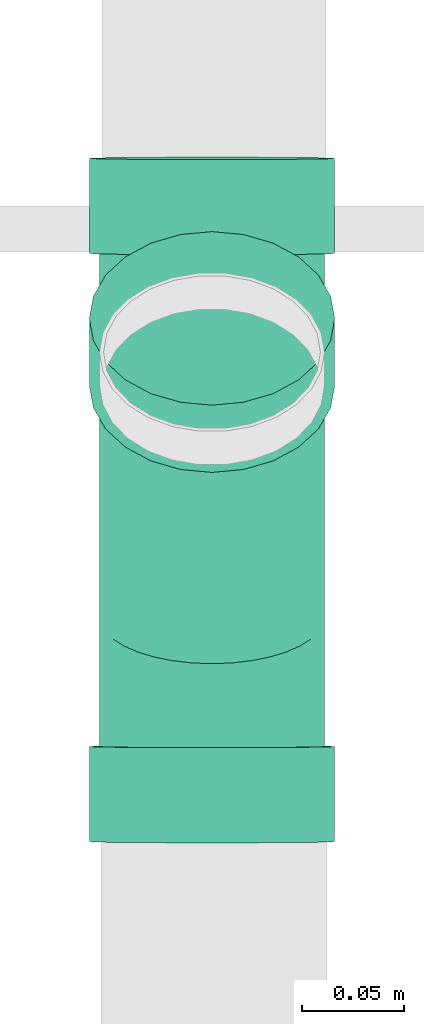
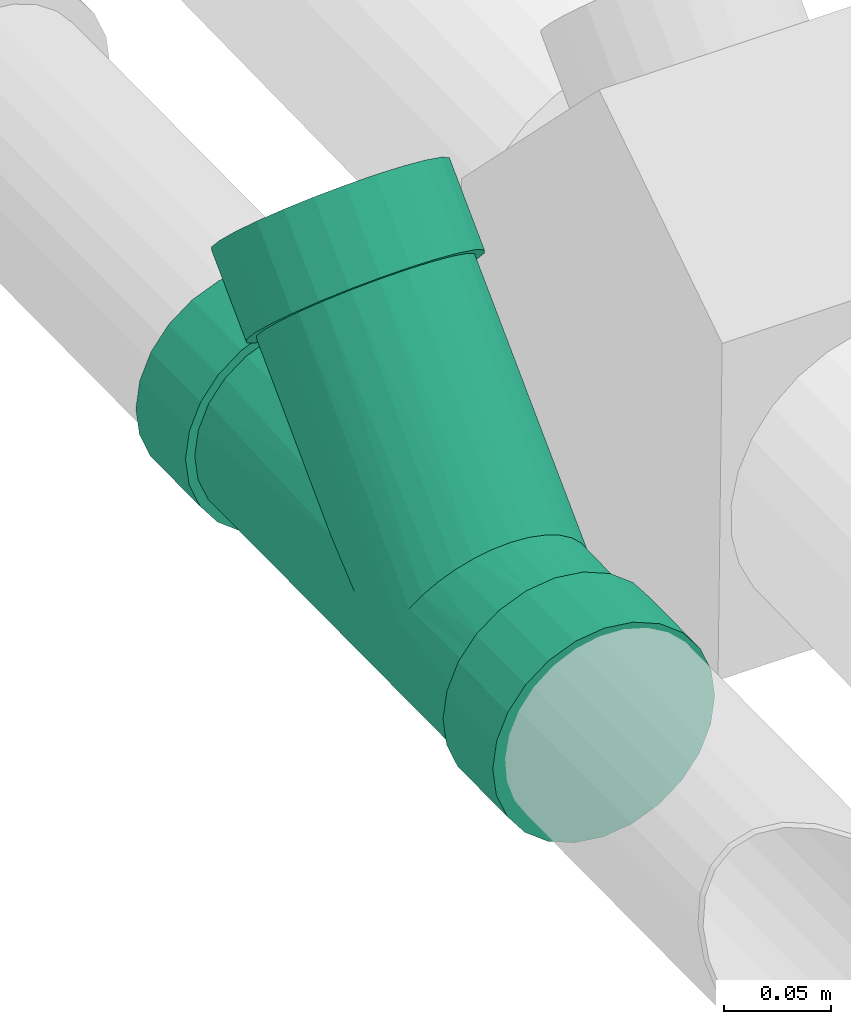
# One storey, part 58 of 78: 1 flow fitting.
"""IFC2X3 building model written with IfcOpenShell, lengths in millimetres."""

from ifc_helpers import new_model, entity, si_unit, converted_unit, derived_unit, direction, frame, origin_with_axes, place, context, subcontext, project, spatial, open_shell, surface_model, source, transform, mapped, type_object, element, save


model = new_model("IFC2X3")

# Units and contexts
model_context = context("Model", 3, precision=0.01, world=frame((0.0, 4.29681676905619e-09, 0.0)), true_north=direction((4.01073788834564e-13, 1.0)))
plan_context = context("Plan", 3, precision=0.01, world=frame((0.0, 4.29681676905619e-09, 0.0)), true_north=direction((4.01073788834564e-13, 1.0)))
body_context = subcontext(model_context, "Body", "Model", "MODEL_VIEW")
ifc_project = project(units=[converted_unit("PLANEANGLEUNIT", "DEGREE", entity("IfcPositiveLengthMeasure", 0.0174532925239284), si_unit("PLANEANGLEUNIT", "RADIAN"), dimensions=[0, 0, 0, 0, 0, 0, 0]), si_unit("AREAUNIT", "SQUARE_METRE"), si_unit("LENGTHUNIT", "METRE", prefix="MILLI"), si_unit("MASSUNIT", "GRAM", prefix="KILO"), si_unit("POWERUNIT", "WATT"), si_unit("PRESSUREUNIT", "PASCAL"), si_unit("FORCEUNIT", "NEWTON", prefix="KILO"), si_unit("ELECTRICVOLTAGEUNIT", "VOLT"), si_unit("ELECTRICCURRENTUNIT", "AMPERE"), si_unit("THERMODYNAMICTEMPERATUREUNIT", "DEGREE_CELSIUS"), si_unit("TIMEUNIT", "SECOND"), si_unit("VOLUMEUNIT", "CUBIC_METRE"), derived_unit("LINEARVELOCITYUNIT", [(si_unit("LENGTHUNIT", "METRE"), 1), (si_unit("TIMEUNIT", "SECOND"), -1)]), derived_unit("VOLUMETRICFLOWRATEUNIT", [(si_unit("VOLUMEUNIT", "CUBIC_METRE"), 1), (si_unit("TIMEUNIT", "SECOND"), -1)]), derived_unit("THERMALTRANSMITTANCEUNIT", [(si_unit("POWERUNIT", "WATT"), 1), (si_unit("THERMODYNAMICTEMPERATUREUNIT", "KELVIN"), -1), (si_unit("AREAUNIT", "SQUARE_METRE"), -1)]), derived_unit("SOUNDPRESSUREUNIT", [(si_unit("PRESSUREUNIT", "PASCAL"), 1)])], contexts=[model_context, plan_context])

# Site, building, storey
site_placement = place(None, frame((0.0, -4.29681676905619e-09, 0.0), z_axis=(0.0, 0.0, 1.0), x_axis=(1.0, 0.0, 0.0)))
site = spatial("IfcSite", under=ifc_project, at=site_placement, Name="ENGM", CompositionType="ELEMENT")
building_placement = place(site_placement, frame((0.0, 4.29681676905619e-09, 0.0), z_axis=(0.0, 0.0, 1.0), x_axis=(1.0, 0.0, 0.0)))
building = spatial("IfcBuilding", under=site, at=building_placement, Name="TH", CompositionType="ELEMENT")
storey_placement = place(building_placement, frame((0.0, 0.0, 205200.0), z_axis=(0.0, 0.0, 1.0), x_axis=(1.0, 0.0, 0.0)))
storey = spatial("IfcBuildingStorey", under=building, at=storey_placement, Name="Nivå D + 1,2 m", CompositionType="ELEMENT", Elevation=205200.0)

# Flow fitting
pipe_fitting_type = type_object("IfcPipeFittingType", Name="magi_sewer_tee_wye_NOR", PredefinedType="JUNCTION")
shared_shape = source(origin_with_axes(), body_context, "Body", "SurfaceModel", [
    surface_model("IfcShellBasedSurfaceModel", [(224.03602, 30.0, -51.96152), (224.03602, -42.42641, -42.42641), (224.03602, 15.52914, -57.95555), (224.03602, 51.96152, -30.0), (224.03602, 42.42641, -42.42641), (224.03602, 57.95555, -15.52914), (224.03602, 60.0, 0.0), (224.03602, 0.0, -60.0), (224.03602, -30.0, -51.96152), (224.03602, -15.52914, -57.95555), (224.03602, 57.95555, 15.52914), (224.03602, -51.96152, -30.0), (224.03602, -60.0, 0.0), (224.03602, -57.95555, -15.52914), (224.03602, 51.96152, 30.0), (224.03602, 42.42641, 42.42641), (224.03602, 15.52914, 57.95555), (224.03602, 0.0, 60.0), (224.03602, 30.0, 51.96152), (224.03602, -51.96152, 30.0), (224.03602, -57.95555, 15.52914), (224.03602, -30.0, 51.96152), (224.03602, -42.42641, 42.42641), (224.03602, -15.52914, 57.95555), (177.53602, 42.42641, 42.42641), (177.53602, 0.0, 60.0), (177.53602, 15.52914, 57.95555), (177.53602, 30.0, 51.96152), (177.53602, 51.96152, 30.0), (177.53602, 57.95555, 15.52914), (177.53602, -60.0, 0.0), (177.53602, -30.0, 51.96152), (177.53602, -51.96152, 30.0), (177.53602, -42.42641, 42.42641), (177.53602, -15.52914, 57.95555), (177.53602, -57.95555, 15.52914), (177.53602, -51.96152, -30.0), (177.53602, -42.42641, -42.42641), (177.53602, 57.95555, -15.52914), (177.53602, 42.42641, -42.42641), (177.53602, 51.96152, -30.0), (177.53602, 30.0, -51.96152), (177.53602, 15.52914, -57.95555), (177.53602, -57.95555, -15.52914), (177.53602, -30.0, -51.96152), (177.53602, 0.0, -60.0), (177.53602, -15.52914, -57.95555), (177.53602, 60.0, 0.0), (135.036, -90.35357, -51.96152), (124.90638, -100.68782, -57.95555), (114.03597, -111.77783, -60.0), (72.03593, -154.62637, 0.0), (77.66287, -148.88575, 30.0), (143.73449, -81.47935, -42.42641), (150.40908, -74.66992, -30.0), (135.036, -90.35357, 51.96152), (84.33746, -142.07632, -42.42641), (77.66287, -148.88575, -30.0), (93.03595, -133.2021, -51.96152), (103.16556, -122.86785, -57.95555), (73.46705, -153.16634, -15.52914), (150.40908, -74.66992, 30.0), (154.6049, -70.38934, -15.52914), (154.6049, -70.38934, 15.52914), (156.03602, -68.92931, 0.0), (143.73449, -81.47935, 42.42641), (124.90638, -100.68782, 57.95555), (114.03597, -111.77783, 60.0), (84.33746, -142.07632, 42.42641), (73.46705, -153.16634, 15.52914), (93.03595, -133.2021, 51.96152), (103.16556, -122.86785, 57.95555), (176.94211, -114.02939, -42.42641), (147.24358, -144.32787, -60.0), (158.11399, -133.23785, -57.95555), (168.2436, -122.90361, -51.96152), (126.24357, -165.75213, -51.96152), (110.87048, -181.43578, 30.0), (183.61668, -107.21995, -30.0), (110.87048, -181.43578, -30.0), (117.54507, -174.62635, -42.42641), (136.37317, -155.41788, -57.95555), (105.24354, -187.1764, 0.0), (106.67466, -185.71637, -15.52914), (187.8125, -102.93937, -15.52914), (183.61668, -107.21995, 30.0), (187.8125, -102.93937, 15.52914), (168.2436, -122.90361, 51.96152), (147.24358, -144.32787, 60.0), (176.94211, -114.02939, 42.42641), (158.11399, -133.23785, 57.95555), (126.24357, -165.75213, 51.96152), (117.54507, -174.62635, 42.42641), (106.67466, -185.71637, 15.52914), (136.37317, -155.41788, 57.95555), (189.24363, -101.47934, 0.0), (-110.00004, -30.0, -51.96152), (-110.00004, 42.42641, -42.42641), (-110.00004, -15.52914, -57.95555), (-110.00004, -51.96152, -30.0), (-110.00004, -42.42641, -42.42641), (-110.00004, -57.95555, -15.52914), (-110.00004, -60.0, 0.0), (-110.00004, 0.0, -60.0), (-110.00004, 30.0, -51.96152), (-110.00004, 15.52914, -57.95555), (-110.00004, -57.95555, 15.52914), (-110.00004, 51.96152, -30.0), (-110.00004, 60.0, 0.0), (-110.00004, 57.95555, -15.52914), (-110.00004, -51.96152, 30.0), (-110.00004, -42.42641, 42.42641), (-110.00004, -15.52914, 57.95555), (-110.00004, 0.0, 60.0), (-110.00004, -30.0, 51.96152), (-110.00004, 51.96152, 30.0), (-110.00004, 57.95555, 15.52914), (-110.00004, 30.0, 51.96152), (-110.00004, 42.42641, 42.42641), (-110.00004, 15.52914, 57.95555), (-63.50004, -42.42641, 42.42641), (-63.50004, 0.0, 60.0), (-63.50004, -15.52914, 57.95555), (-63.50004, -30.0, 51.96152), (-63.50004, -51.96152, 30.0), (-63.50004, -57.95555, 15.52914), (-63.50004, 60.0, 0.0), (-63.50004, 30.0, 51.96152), (-63.50004, 51.96152, 30.0), (-63.50004, 42.42641, 42.42641), (-63.50004, 15.52914, 57.95555), (-63.50004, 57.95555, 15.52914), (-63.50004, 51.96152, -30.0), (-63.50004, 42.42641, -42.42641), (-63.50004, -57.95555, -15.52914), (-63.50004, -42.42641, -42.42641), (-63.50004, -51.96152, -30.0), (-63.50004, -30.0, -51.96152), (-63.50004, -15.52914, -57.95555), (-63.50004, 57.95555, -15.52914), (-63.50004, 30.0, -51.96152), (-63.50004, 0.0, -60.0), (-63.50004, 15.52914, -57.95555), (-63.50004, -60.0, 0.0), (177.53602, 27.5, -47.63139), (177.53602, 0.0, -55.0), (177.53602, 14.23505, -53.12592), (177.53602, 47.63139, -27.5), (177.53602, 38.89087, -38.89087), (177.53602, 53.12592, -14.23505), (177.53602, 47.63139, 27.5), (177.53602, 27.5, 47.63139), (177.53602, -27.5, -47.63139), (177.53602, -14.23505, -53.12592), (177.53602, -47.63139, -27.5), (177.53602, -38.89087, -38.89087), (177.53602, -47.63139, 27.5), (177.53602, -55.0, 0.0), (177.53602, -53.12592, -14.23505), (177.53602, 55.0, 0.0), (177.53602, 38.89087, 38.89087), (177.53602, 14.23505, 53.12592), (177.53602, 0.0, 55.0), (177.53602, -38.89087, 38.89087), (177.53602, -53.12592, 14.23505), (177.53602, -14.23505, 53.12592), (177.53602, -27.5, 47.63139), (177.53602, 53.12592, 14.23505), (-63.50004, 0.0, 55.0), (-63.50004, 14.23505, 53.12592), (-63.50004, 27.5, 47.63139), (-63.50004, -47.63139, 27.5), (-63.50004, 27.5, -47.63139), (-63.50004, 47.63139, 27.5), (-63.50004, 38.89087, 38.89087), (-63.50004, -27.5, 47.63139), (-63.50004, -14.23505, 53.12592), (-63.50004, -38.89087, 38.89087), (-63.50004, -55.0, 0.0), (-63.50004, -53.12592, 14.23505), (-63.50004, -47.63139, -27.5), (-63.50004, 53.12592, -14.23505), (-63.50004, 53.12592, 14.23505), (-63.50004, 47.63139, -27.5), (-63.50004, -27.5, -47.63139), (-63.50004, 38.89087, -38.89087), (-63.50004, 0.0, -55.0), (-63.50004, 14.23505, -53.12592), (-63.50004, -38.89087, -38.89087), (-63.50004, -53.12592, -14.23505), (-63.50004, -14.23505, -53.12592), (-63.50004, 55.0, 0.0), (-21.54704, -52.76379, -14.70993), (-63.50004, -53.59444, -10.67629), (-22.46024, -55.0, 0.0), (-63.50004, -54.53148, -3.55876), (-22.2756, -54.54787, -4.96614), (-63.50004, -54.06296, -7.11752), (-22.09097, -54.09575, -9.93227), (-63.50004, -43.26114, -33.19544), (-16.92066, -41.43485, -36.1684), (-18.08655, -44.28983, -32.24725), (-19.25243, -47.14481, -28.32609), (-20.12777, -49.28832, -23.90684), (-63.50004, -33.19544, -43.26114), (-10.9048, -26.70336, -48.08254), (-15.51245, -37.98646, -39.48585), (-14.10424, -34.53807, -42.80329), (-21.00311, -51.43184, -19.48759), (-63.50004, -50.37866, -20.86752), (-9.16399, -22.44052, -49.9959), (-63.50004, -49.00503, -24.18376), (-63.50004, -20.86752, -50.37866), (-7.42319, -18.17769, -51.90926), (129.38328, -52.83598, -15.27608), (118.11626, -48.2349, -26.42716), (132.03287, -53.91799, -7.63804), (177.53602, -54.06296, -7.11752), (134.68246, -55.0, 0.0), (104.77923, -42.78848, -34.55642), (177.53602, -43.26114, -33.19544), (-3.75696, -9.19994, -54.2251), (-63.50004, -7.11752, -54.06296), (75.88185, -30.98771, -45.43965), (60.93127, -24.88238, -49.04964), (90.56181, -36.98254, -40.70985), (0.0, 0.0, -55.0), (-5.59007, -13.68882, -53.06718), (30.59329, -12.49332, -53.56227), (15.31071, -6.2524, -54.64346), (45.81522, -18.70947, -51.71998), (-18.08655, -44.28983, 32.24725), (-63.50004, -43.26114, 33.19544), (-20.12777, -49.28832, 23.90684), (-63.50004, -49.00503, 24.18376), (-63.50004, -7.11752, 54.06296), (-3.75696, -9.19994, 54.2251), (0.0, 0.0, 55.0), (-5.59007, -13.68882, 53.06718), (-7.42319, -18.17769, 51.90926), (-63.50004, -20.86752, 50.37866), (-10.9048, -26.70336, 48.08254), (-9.16399, -22.44052, 49.9959), (104.33903, -42.60872, 33.5685), (177.53602, -43.26114, 33.19544), (-22.2756, -54.54787, 4.96614), (-63.50004, -54.06296, 7.11752), (-63.50004, -54.53148, 3.55876), (-63.50004, -50.37866, 20.86752), (-21.00311, -51.43184, 19.48759), (30.59329, -12.49332, 53.56227), (60.93127, -24.88238, 49.04964), (-63.50004, -33.19544, 43.26114), (-14.10424, -34.53807, 42.80329), (-19.25243, -47.14481, 28.32609), (-16.92066, -41.43485, 36.1684), (-15.51245, -37.98646, 39.48585), (-21.54704, -52.76379, 14.70993), (-63.50004, -53.59444, 10.67629), (-22.09097, -54.09575, 9.93227), (90.56181, -36.98254, 40.70985), (118.11626, -48.2349, 26.42716), (126.39936, -51.61745, 13.21358), (114.03597, -111.77783, -55.0), (124.00052, -101.61198, -53.12592), (133.286, -92.13893, -47.63139), (80.69397, -145.79343, -27.5), (76.84779, -149.7173, -14.23505), (147.37799, -77.76225, -27.5), (141.25961, -84.00422, -38.89087), (80.69397, -145.79343, 27.5), (94.78596, -131.41674, -47.63139), (86.81233, -139.55145, -38.89087), (104.07143, -121.94368, -53.12592), (75.53593, -151.05565, 0.0), (151.22415, -73.83838, 14.23505), (151.22415, -73.83838, -14.23505), (147.37799, -77.76225, 27.5), (86.81233, -139.55145, 38.89087), (114.03597, -111.77783, 55.0), (141.25961, -84.00422, 38.89087), (133.286, -92.13893, 47.63139), (124.00052, -101.61198, 53.12592), (76.84779, -149.7173, 14.23505), (104.07143, -121.94368, 53.12592), (94.78596, -131.41674, 47.63139), (152.53602, -72.50002, 0.0), (151.88008, -73.1692, -7.11752), (149.30107, -75.80031, -20.86752), (144.3188, -80.88324, -33.19544), (123.74977, -50.53544, -20.85162)], [open_shell([[[0, 1, 2]], [[3, 0, 4]], [[5, 6, 0]], [[5, 0, 3]], [[1, 0, 6]], [[7, 8, 9]], [[8, 7, 1]], [[2, 1, 7]], [[1, 10, 11]], [[11, 12, 13]], [[10, 1, 6]], [[10, 14, 15]], [[12, 10, 15]], [[16, 17, 15]], [[16, 15, 18]], [[19, 15, 17]], [[12, 19, 20]], [[12, 15, 19]], [[19, 21, 22]], [[19, 17, 21]], [[23, 21, 17]], [[10, 12, 11]], [[24, 25, 26]], [[24, 26, 27]], [[24, 28, 29]], [[25, 24, 30]], [[30, 24, 29]], [[31, 32, 33]], [[31, 34, 25]], [[32, 30, 35]], [[31, 25, 32]], [[25, 30, 32]], [[29, 36, 30]], [[37, 29, 38]], [[39, 38, 40]], [[41, 42, 38]], [[41, 38, 39]], [[37, 38, 42]], [[37, 36, 29]], [[43, 30, 36]], [[44, 45, 46]], [[45, 44, 37]], [[45, 37, 42]], [[47, 38, 29]], [[43, 13, 30]], [[36, 11, 43]], [[8, 37, 44]], [[36, 37, 1]], [[9, 44, 46]], [[43, 11, 13]], [[13, 12, 30]], [[9, 8, 44]], [[1, 37, 8]], [[1, 11, 36]], [[7, 9, 46]], [[46, 45, 7]], [[2, 42, 41]], [[39, 0, 41]], [[3, 40, 38]], [[39, 40, 4]], [[5, 38, 47]], [[42, 2, 45]], [[41, 0, 2]], [[45, 2, 7]], [[39, 4, 0]], [[40, 3, 4]], [[5, 3, 38]], [[47, 6, 5]], [[29, 10, 47]], [[28, 14, 29]], [[18, 24, 27]], [[28, 24, 15]], [[16, 27, 26]], [[29, 14, 10]], [[10, 6, 47]], [[18, 27, 16]], [[15, 24, 18]], [[15, 14, 28]], [[16, 25, 17]], [[16, 26, 25]], [[23, 34, 31]], [[33, 21, 31]], [[19, 32, 35]], [[33, 32, 22]], [[20, 35, 30]], [[34, 23, 25]], [[31, 21, 23]], [[25, 23, 17]], [[33, 22, 21]], [[32, 19, 22]], [[20, 19, 35]], [[30, 12, 20]], [[48, 49, 50]], [[50, 51, 52]], [[48, 50, 52]], [[53, 48, 54]], [[55, 54, 48]], [[56, 57, 58]], [[50, 59, 58]], [[60, 51, 57]], [[58, 57, 51]], [[58, 51, 50]], [[61, 62, 54]], [[61, 63, 64]], [[54, 55, 61]], [[48, 52, 55]], [[65, 61, 55]], [[66, 55, 67]], [[52, 68, 55]], [[52, 51, 69]], [[70, 71, 68]], [[67, 68, 71]], [[55, 68, 67]], [[62, 61, 64]], [[72, 73, 74]], [[72, 74, 75]], [[76, 73, 77]], [[78, 73, 72]], [[73, 78, 77]], [[76, 79, 80]], [[76, 81, 73]], [[79, 82, 83]], [[77, 79, 76]], [[77, 82, 79]], [[77, 78, 84]], [[85, 84, 86]], [[77, 84, 85]], [[85, 87, 88]], [[87, 85, 89]], [[90, 88, 87]], [[77, 91, 92]], [[93, 82, 77]], [[77, 94, 91]], [[94, 77, 88]], [[85, 88, 77]], [[86, 84, 95]], [[93, 51, 82]], [[77, 69, 93]], [[68, 92, 91]], [[77, 92, 52]], [[70, 91, 94]], [[77, 52, 69]], [[69, 51, 93]], [[71, 88, 67]], [[71, 70, 94]], [[68, 91, 70]], [[68, 52, 92]], [[88, 71, 94]], [[55, 90, 87]], [[89, 65, 87]], [[63, 85, 86]], [[89, 85, 61]], [[64, 86, 95]], [[90, 66, 67]], [[90, 55, 66]], [[87, 65, 55]], [[89, 61, 65]], [[63, 61, 85]], [[86, 64, 63]], [[90, 67, 88]], [[84, 64, 95]], [[78, 62, 84]], [[53, 72, 75]], [[78, 72, 54]], [[48, 75, 74]], [[78, 54, 62]], [[62, 64, 84]], [[49, 73, 50]], [[49, 48, 74]], [[53, 75, 48]], [[53, 54, 72]], [[73, 49, 74]], [[58, 81, 76]], [[80, 56, 76]], [[60, 79, 83]], [[80, 79, 57]], [[51, 83, 82]], [[59, 50, 81]], [[59, 81, 58]], [[76, 56, 58]], [[80, 57, 56]], [[60, 57, 79]], [[83, 51, 60]], [[81, 50, 73]], [[96, 97, 98]], [[99, 96, 100]], [[101, 102, 96]], [[101, 96, 99]], [[97, 96, 102]], [[103, 104, 105]], [[104, 103, 97]], [[98, 97, 103]], [[97, 106, 107]], [[107, 108, 109]], [[106, 97, 102]], [[106, 110, 111]], [[108, 106, 111]], [[112, 113, 111]], [[112, 111, 114]], [[115, 111, 113]], [[108, 115, 116]], [[108, 111, 115]], [[115, 117, 118]], [[115, 113, 117]], [[119, 117, 113]], [[106, 108, 107]], [[120, 121, 122]], [[120, 122, 123]], [[120, 124, 125]], [[121, 120, 126]], [[126, 120, 125]], [[127, 128, 129]], [[127, 130, 121]], [[128, 126, 131]], [[127, 121, 128]], [[121, 126, 128]], [[125, 132, 126]], [[133, 125, 134]], [[135, 134, 136]], [[137, 138, 134]], [[137, 134, 135]], [[133, 134, 138]], [[133, 132, 125]], [[139, 126, 132]], [[140, 141, 142]], [[141, 140, 133]], [[141, 133, 138]], [[143, 134, 125]], [[139, 109, 126]], [[132, 107, 139]], [[104, 133, 140]], [[132, 133, 97]], [[105, 140, 142]], [[139, 107, 109]], [[109, 108, 126]], [[105, 104, 140]], [[97, 133, 104]], [[97, 107, 132]], [[103, 105, 142]], [[142, 141, 103]], [[98, 138, 137]], [[135, 96, 137]], [[99, 136, 134]], [[135, 136, 100]], [[101, 134, 143]], [[138, 98, 141]], [[137, 96, 98]], [[141, 98, 103]], [[135, 100, 96]], [[136, 99, 100]], [[101, 99, 134]], [[143, 102, 101]], [[125, 106, 143]], [[124, 110, 125]], [[114, 120, 123]], [[124, 120, 111]], [[112, 123, 122]], [[125, 110, 106]], [[106, 102, 143]], [[114, 123, 112]], [[111, 120, 114]], [[111, 110, 124]], [[112, 121, 113]], [[112, 122, 121]], [[119, 130, 127]], [[129, 117, 127]], [[115, 128, 131]], [[129, 128, 118]], [[116, 131, 126]], [[130, 119, 121]], [[127, 117, 119]], [[121, 119, 113]], [[129, 118, 117]], [[128, 115, 118]], [[116, 115, 131]], [[126, 108, 116]], [[144, 145, 146]], [[147, 144, 148]], [[144, 149, 150]], [[149, 144, 147]], [[144, 151, 152]], [[145, 152, 153]], [[145, 144, 152]], [[152, 154, 155]], [[152, 156, 154]], [[154, 157, 158]], [[159, 150, 149]], [[144, 150, 151]], [[151, 150, 160]], [[151, 161, 162]], [[151, 156, 152]], [[162, 163, 151]], [[157, 156, 164]], [[154, 156, 157]], [[163, 165, 166]], [[163, 156, 151]], [[165, 163, 162]], [[159, 167, 150]], [[168, 169, 170]], [[171, 168, 170]], [[172, 171, 170]], [[173, 170, 174]], [[173, 172, 170]], [[168, 175, 176]], [[168, 177, 175]], [[171, 178, 179]], [[177, 168, 171]], [[171, 180, 178]], [[181, 173, 182]], [[181, 183, 173]], [[173, 183, 172]], [[171, 172, 184]], [[172, 183, 185]], [[186, 172, 187]], [[180, 184, 188]], [[189, 178, 180]], [[184, 186, 190]], [[180, 171, 184]], [[186, 184, 172]], [[182, 191, 181]], [[189, 192, 193]], [[194, 195, 196]], [[195, 197, 196]], [[198, 193, 192]], [[199, 200, 201]], [[202, 203, 180]], [[200, 199, 188]], [[204, 184, 205]], [[198, 197, 193]], [[180, 199, 201]], [[206, 200, 188]], [[197, 198, 196]], [[205, 207, 204]], [[203, 208, 209]], [[184, 210, 205]], [[180, 203, 211]], [[212, 213, 210]], [[214, 215, 154]], [[216, 214, 158]], [[217, 218, 216]], [[158, 214, 154]], [[219, 220, 215]], [[207, 188, 204]], [[221, 190, 222]], [[152, 223, 224]], [[225, 223, 152]], [[225, 155, 219]], [[155, 225, 152]], [[220, 154, 215]], [[208, 189, 209]], [[216, 158, 217]], [[180, 201, 202]], [[210, 184, 212]], [[203, 209, 211]], [[186, 226, 222]], [[190, 221, 227]], [[227, 213, 190]], [[221, 222, 226]], [[219, 155, 220]], [[186, 187, 226]], [[195, 194, 178]], [[148, 185, 183]], [[147, 183, 181]], [[146, 187, 172]], [[144, 172, 185]], [[146, 226, 187]], [[149, 181, 191]], [[188, 207, 206]], [[189, 208, 192]], [[228, 229, 153]], [[230, 228, 153]], [[230, 153, 224]], [[153, 229, 145]], [[224, 153, 152]], [[226, 145, 229]], [[218, 217, 157]], [[146, 145, 226]], [[144, 146, 172]], [[144, 185, 148]], [[147, 148, 183]], [[149, 147, 181]], [[191, 159, 149]], [[213, 212, 190]], [[174, 150, 173]], [[171, 231, 232]], [[233, 171, 234]], [[173, 150, 182]], [[167, 191, 182]], [[160, 174, 170]], [[235, 176, 236]], [[169, 168, 237]], [[236, 176, 238]], [[239, 176, 240]], [[170, 169, 151]], [[241, 242, 175]], [[235, 237, 168]], [[243, 156, 244]], [[160, 150, 174]], [[245, 246, 247]], [[248, 249, 233]], [[151, 160, 170]], [[167, 182, 150]], [[159, 191, 167]], [[237, 235, 236]], [[237, 250, 162]], [[237, 162, 161]], [[162, 250, 165]], [[165, 250, 251]], [[161, 151, 169]], [[237, 161, 169]], [[241, 252, 253]], [[254, 231, 171]], [[252, 177, 253]], [[232, 231, 255]], [[176, 239, 238]], [[253, 177, 256]], [[233, 234, 248]], [[245, 247, 194]], [[257, 258, 259]], [[257, 249, 179]], [[259, 246, 245]], [[163, 260, 243]], [[194, 247, 178]], [[179, 249, 248]], [[175, 242, 240]], [[171, 233, 254]], [[241, 175, 252]], [[251, 260, 166]], [[259, 258, 246]], [[166, 260, 163]], [[251, 166, 165]], [[258, 257, 179]], [[255, 177, 232]], [[163, 243, 244]], [[156, 243, 261]], [[177, 255, 256]], [[164, 261, 262]], [[261, 164, 156]], [[262, 157, 164]], [[262, 218, 157]], [[239, 240, 242]], [[263, 264, 265]], [[266, 263, 265]], [[267, 265, 268]], [[268, 265, 269]], [[270, 267, 268]], [[271, 266, 272]], [[266, 271, 273]], [[263, 266, 273]], [[265, 267, 266]], [[267, 270, 274]], [[275, 268, 276]], [[275, 277, 268]], [[277, 278, 268]], [[279, 280, 281]], [[278, 277, 280]], [[282, 279, 281]], [[278, 270, 268]], [[283, 274, 270]], [[278, 284, 285]], [[284, 278, 279]], [[279, 278, 280]], [[286, 275, 276]], [[259, 194, 274]], [[283, 259, 274]], [[278, 285, 253]], [[255, 270, 278]], [[249, 283, 270]], [[239, 285, 284]], [[249, 259, 283]], [[254, 249, 270]], [[253, 255, 278]], [[239, 241, 285]], [[253, 285, 241]], [[254, 270, 255]], [[286, 262, 275]], [[284, 236, 239]], [[250, 279, 282]], [[281, 251, 282]], [[277, 275, 261]], [[261, 280, 277]], [[260, 281, 280]], [[262, 286, 218]], [[279, 237, 236]], [[279, 250, 237]], [[262, 261, 275]], [[250, 282, 251]], [[261, 260, 280]], [[281, 260, 251]], [[279, 236, 284]], [[276, 216, 287]], [[214, 276, 288]], [[286, 287, 218]], [[268, 215, 288]], [[269, 265, 225]], [[219, 289, 269]], [[288, 290, 214]], [[224, 265, 264]], [[288, 215, 290]], [[215, 268, 289]], [[223, 225, 265]], [[219, 269, 225]], [[230, 224, 264]], [[263, 229, 228]], [[230, 264, 228]], [[223, 265, 224]], [[215, 289, 219]], [[228, 264, 263]], [[271, 213, 273]], [[273, 221, 263]], [[207, 271, 272]], [[198, 267, 274]], [[272, 266, 200]], [[267, 208, 266]], [[274, 194, 198]], [[205, 213, 271]], [[221, 226, 263]], [[213, 221, 273]], [[276, 214, 216]], [[198, 208, 267]], [[218, 287, 216]], [[200, 207, 272]], [[202, 200, 266]], [[208, 202, 266]], [[205, 271, 207]], [[263, 226, 229]]])]),
])
flow_fitting_placement = place(storey_placement, frame((903100.98771, 481826.92394, 4351.29931), z_axis=(-1.0, 0.0, 0.0), x_axis=(0.0, 0.999949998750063, 0.00999999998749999)))
element("IfcFlowFitting", 1, at=flow_fitting_placement, inside=storey, type_object=pipe_fitting_type, Name="magi_sewer_tee_wye_NOR", context=body_context, shape_type="MappedRepresentation", body=[
    mapped(shared_shape, transform((0.0, 0.0, 0.0), scale=1.0)),
])

save(model, "model.ifc")
